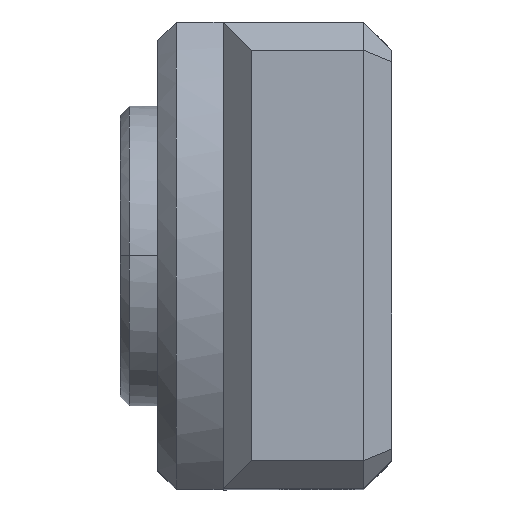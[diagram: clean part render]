
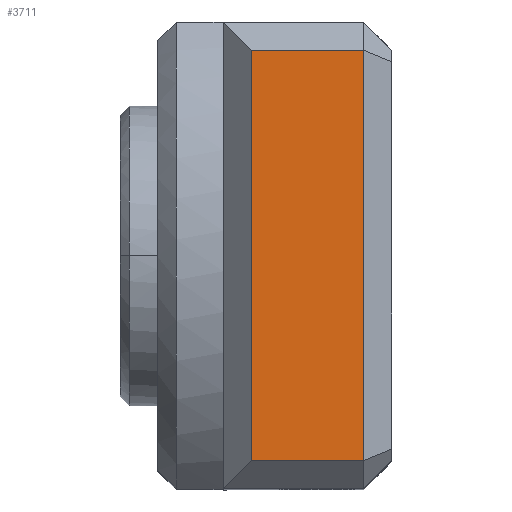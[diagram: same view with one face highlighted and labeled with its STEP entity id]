
A CAD part, top view. The second image highlights one B-rep face of the part: STEP entity #3711.
In plain terms, the highlighted free-form (B-spline) face has degree [1, 1] with [2, 2] control points.
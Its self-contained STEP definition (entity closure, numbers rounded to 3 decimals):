
#293=CARTESIAN_POINT('',(7.,10.95,18.35));
#294=VERTEX_POINT('',#293);
#307=CARTESIAN_POINT('',(7.,-10.95,18.35));
#308=VERTEX_POINT('',#307);
#314=CARTESIAN_POINT('',(7.,10.95,18.35));
#315=CARTESIAN_POINT('',(7.,-10.95,18.35));
#316=QUASI_UNIFORM_CURVE('',1,(#314,#315),.UNSPECIFIED.,.F.,.U.);
#317=EDGE_CURVE('',#294,#308,#316,.T.);
#365=CARTESIAN_POINT('',(13.,-10.95,18.35));
#366=VERTEX_POINT('',#365);
#473=CARTESIAN_POINT('',(13.,10.95,18.35));
#474=VERTEX_POINT('',#473);
#480=CARTESIAN_POINT('',(13.,-10.95,18.35));
#481=CARTESIAN_POINT('',(13.,10.95,18.35));
#482=QUASI_UNIFORM_CURVE('',1,(#480,#481),.UNSPECIFIED.,.F.,.U.);
#483=EDGE_CURVE('',#366,#474,#482,.T.);
#675=CARTESIAN_POINT('',(7.,-10.95,18.35));
#676=CARTESIAN_POINT('',(13.,-10.95,18.35));
#677=QUASI_UNIFORM_CURVE('',1,(#675,#676),.UNSPECIFIED.,.F.,.U.);
#678=EDGE_CURVE('',#308,#366,#677,.T.);
#701=CARTESIAN_POINT('',(13.,10.95,18.35));
#702=CARTESIAN_POINT('',(7.,10.95,18.35));
#703=QUASI_UNIFORM_CURVE('',1,(#701,#702),.UNSPECIFIED.,.F.,.U.);
#704=EDGE_CURVE('',#474,#294,#703,.T.);
#3700=CARTESIAN_POINT('',(13.6,-13.14,18.35));
#3701=CARTESIAN_POINT('',(6.4,-13.14,18.35));
#3702=CARTESIAN_POINT('',(13.6,13.14,18.35));
#3703=CARTESIAN_POINT('',(6.4,13.14,18.35));
#3704=B_SPLINE_SURFACE_WITH_KNOTS('',1,1,((#3700,#3702),(#3701,#3703)),.UNSPECIFIED.,.F.,.F.,.U.,(2,2),(2,2),(0.,7.2),(0.,26.28),.UNSPECIFIED.);
#3705=ORIENTED_EDGE('',*,*,#704,.T.);
#3706=ORIENTED_EDGE('',*,*,#317,.T.);
#3707=ORIENTED_EDGE('',*,*,#678,.T.);
#3708=ORIENTED_EDGE('',*,*,#483,.T.);
#3709=EDGE_LOOP('',(#3705,#3706,#3707,#3708));
#3710=FACE_OUTER_BOUND('',#3709,.T.);
#3711=ADVANCED_FACE('',(#3710),#3704,.F.);
